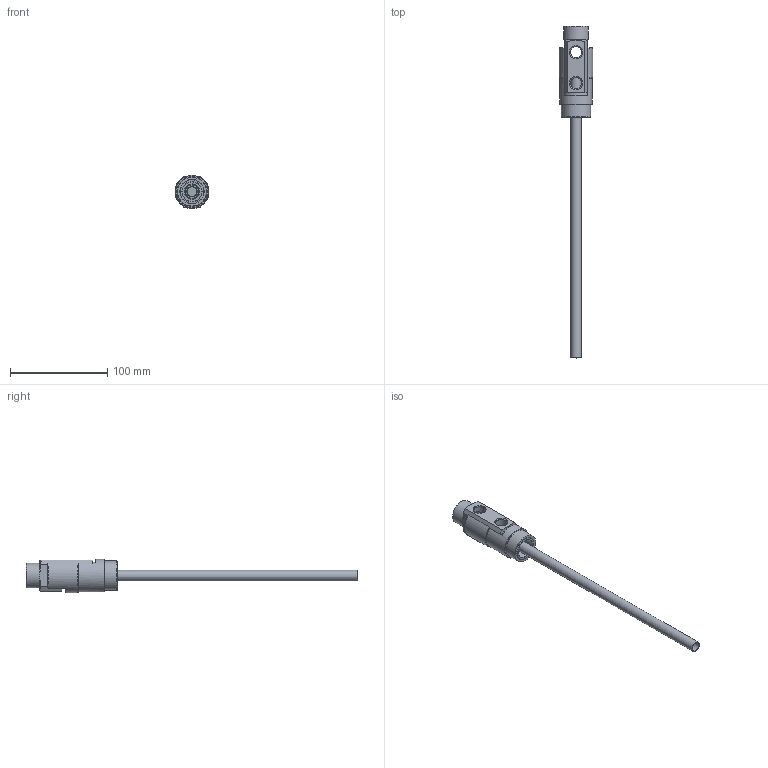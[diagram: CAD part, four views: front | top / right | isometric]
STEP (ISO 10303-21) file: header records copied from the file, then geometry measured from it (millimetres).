
FILE_DESCRIPTION(/* description */ (''),/* implementation_level */ '2;1');
FILE_NAME(/* name */ 'C:/Users/drich/Desktop/SC121N-4-RL v1.step',/* time_stamp */ '2020-01-15T19:44:33-06:00',/* author */ (''),/* organization */ (''),/* preprocessor_version */ 'ST-DEVELOPER v18',/* originating_system */ 'Autodesk Translation Framework v8.12.0.6',/* authorisation */ '');
FILE_SCHEMA (('AUTOMOTIVE_DESIGN { 1 0 10303 214 3 1 1 }'));
Length unit declared in the file: inch
Products named in the file (5): SC121N-4-RL; SC121H-4-RL HEAD; SC121H-4 Sleeve; PT38-437-12; BF-12
Assembly tree (4 placements, depth 3):
  SC121N-4-RL
    SC121H-4-RL HEAD
      SC121H-4 Sleeve
    PT38-437-12
    BF-12
Bounding box: 34.92 x 341.3 x 34.12 mm (x, y, z)
Volume: 54528.8 mm3; surface area: 48559.7 mm2
Topology: 4 solids, 4 shells, 120 faces, 335 edges, 227 vertices
Faces by surface type: plane 68, cylinder 23, cone 16, torus 13
Full cylindrical faces by diameter (mm): 10.084 x1, 10.82 x1, 11.668 x3, 13.868 x1, 15.173 x1, 15.875 x1, 16.537 x1, 18.901 x1, 20.066 x1, 20.813 x1, 24.384 x1, 25.4 x1, 27.432 x1, 30.15 x1, 33.325 x1
Entity records: 4264 total; most frequent: CARTESIAN_POINT 976, DIRECTION 687, ORIENTED_EDGE 670, EDGE_CURVE 335, AXIS2_PLACEMENT_3D 270, VERTEX_POINT 227, LINE 147, VECTOR 147
